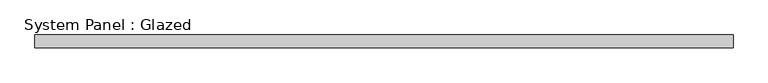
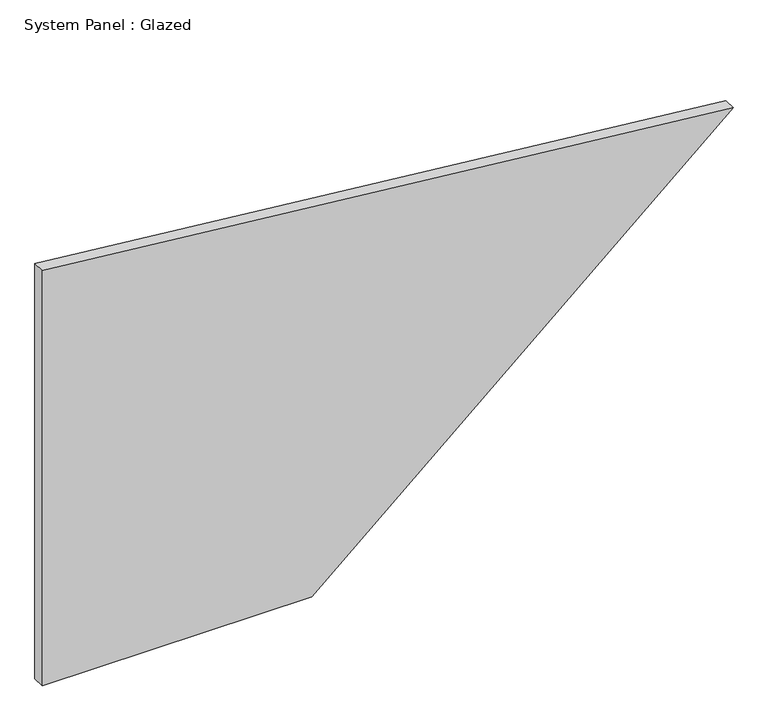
"""IFC4 building model written with IfcOpenShell, lengths in millimetres: plate geometry, System Panel : Glazed."""

from ifc_helpers import new_model, si_unit, frame, origin, place, context, project, spatial, polyline, outline, extrude, source, transform, mapped, element, save


def system_panel_glazed_4141a5f3(model_context):
    return source(origin(), model_context, "Body", "SweptSolid", [
        extrude(outline(polyline([(0.0, -688.6399122), (0.0, -151.6832196), (736.7594809, 688.6399122), (875.2446015, -688.6399122), (0.0, -688.6399122)])), frame((0.0, 24.5, 0.0), z_axis=(0.0, 1.0, 0.0), x_axis=(0.0, 0.0, 1.0)), (0.0, 0.0, 1.0), 25.0),
    ])


if __name__ == "__main__":
    model = new_model("IFC4")
    model_context = context("Model", 3, world=origin())
    ifc_project = project(units=[si_unit("LENGTHUNIT", "METRE", prefix="MILLI")], contexts=[model_context])
    site = spatial("IfcSite", under=ifc_project)
    building = spatial("IfcBuilding", under=site)
    placement = place(None, origin())
    system_panel_glazed_shape = system_panel_glazed_4141a5f3(model_context)
    element("IfcPlate", 1, ObjectType="System Panel : Glazed", at=placement, inside=building, context=model_context, shape_type="MappedRepresentation", body=[
        mapped(system_panel_glazed_shape, transform((0.0, 0.0, 0.0), x_axis=(1.0, 0.0, 0.0), y_axis=(0.0, 1.0, 0.0), z_axis=(0.0, 0.0, 1.0))),
    ])
    save(model, "model.ifc")
